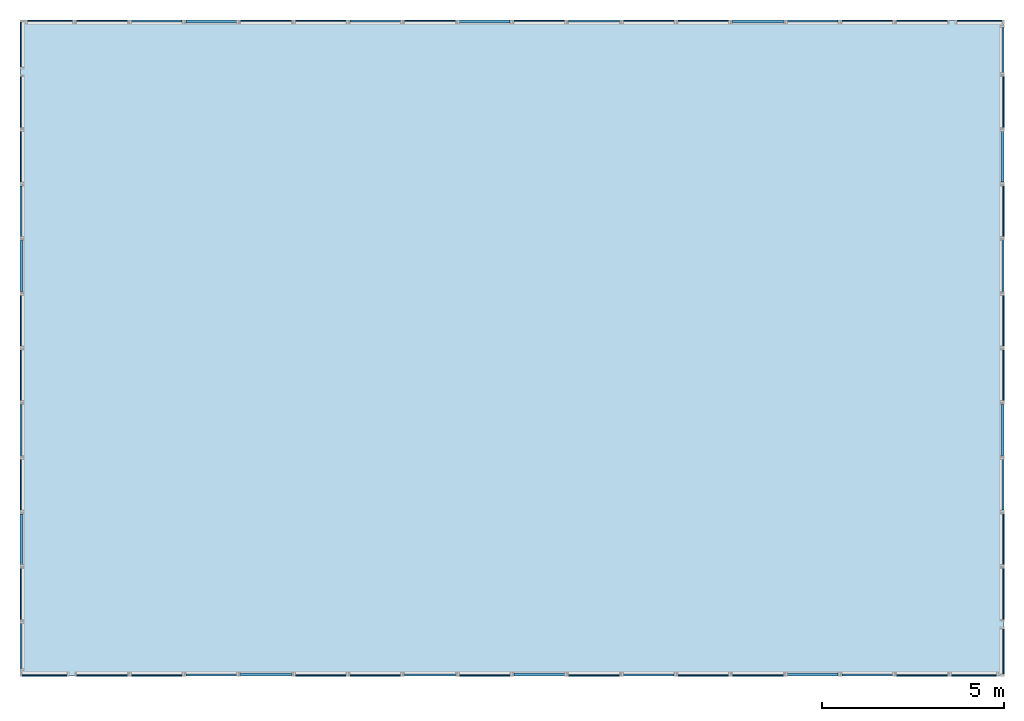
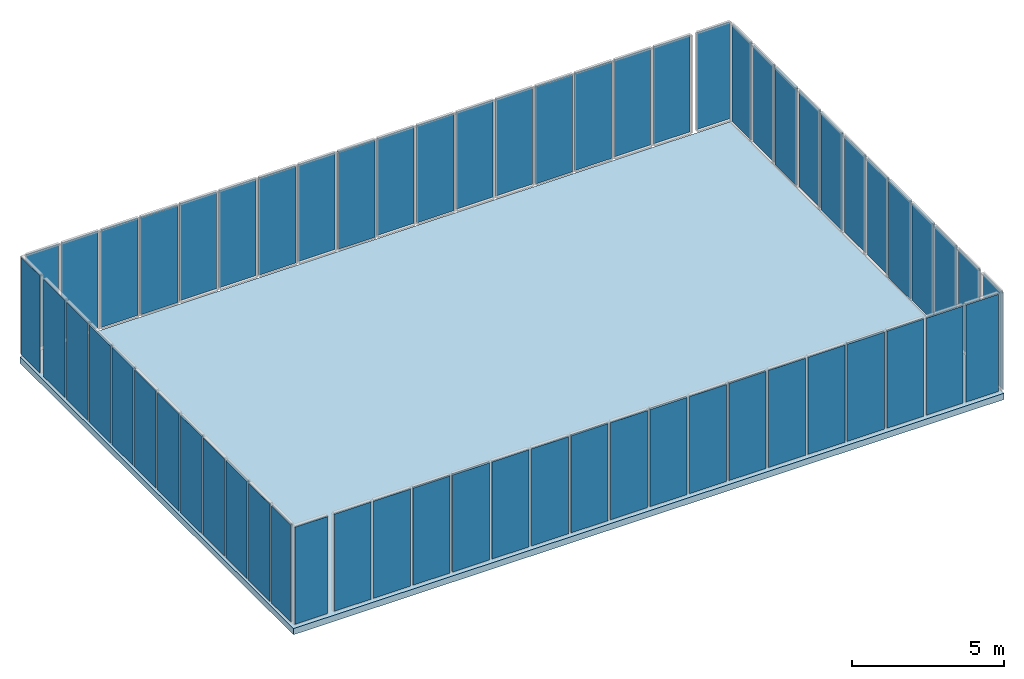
# One storey, part 4 of 4: 60 plates, 1 slab.
"""IFC4 building model written with IfcOpenShell, lengths in metres."""

from ifc_helpers import new_model, si_unit, frame, origin_with_axes, place, context, subcontext, project, spatial, indexed_curve, outline, extrude, material, element, save


model = new_model("IFC4")

# Units and contexts
model_context = context("Model", 3, precision=1e-05, world=origin_with_axes())
body_context = subcontext(model_context, "Body", "Model", "MODEL_VIEW")
ifc_project = project(units=[si_unit("AREAUNIT", "SQUARE_METRE"), si_unit("VOLUMEUNIT", "CUBIC_METRE"), si_unit("LENGTHUNIT", "METRE")], contexts=[model_context])

# Site, building, storey
site = spatial("IfcSite", under=ifc_project, Name="Synthetic Site")
building = spatial("IfcBuilding", under=site, Name="Complex Tower")
storey_placement = place(None, frame((0.0, 0.0, 8.4), z_axis=(0.0, 0.0, 1.0), x_axis=(1.0, 0.0, 0.0)))
storey = spatial("IfcBuildingStorey", under=building, at=storey_placement, Name="L03", Elevation=8.4)

# Plates
ifc_material_1 = material(Name="Glass")
plate_1_placement = place(storey_placement, frame((0.05, 0.0, 0.15000000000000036), z_axis=(0.0, 0.0, 1.0), x_axis=(1.0, 0.0, 0.0)))
element("IfcPlate", 1, at=plate_1_placement, inside=storey, material=ifc_material_1, Name="CT-L03-S-001", PredefinedType="CURTAIN_PANEL", context=body_context, shape_type="SweptSolid", body=[
    extrude(outline(indexed_curve([(0.0, 0.0), (0.0, 0.028), (1.25, 0.028), (1.25, 0.0), (0.0, 0.0)], self_intersect=False)), origin_with_axes(), (0.0, 0.0, 1.0), 3.9000000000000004),
])
for number, where, z_axis, x_axis, name in (
    (2, (1.55, 0.0, 0.15000000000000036), (0.0, 0.0, 1.0), (1.0, 0.0, 0.0), "CT-L03-S-002"),
    (3, (3.05, 0.0, 0.15000000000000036), (0.0, 0.0, 1.0), (1.0, 0.0, 0.0), "CT-L03-S-003"),
):
    element("IfcPlate", number, at=place(storey_placement, frame(where, z_axis=z_axis, x_axis=x_axis)), inside=storey, material=ifc_material_1, Name=name, PredefinedType="CURTAIN_PANEL", context=body_context, shape_type="SweptSolid", body=[
        extrude(outline(indexed_curve([(0.0, 0.0), (0.0, 0.028), (1.4, 0.028), (1.4, 0.0), (0.0, 0.0)], self_intersect=False)), origin_with_axes(), (0.0, 0.0, 1.0), 3.9000000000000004),
    ])
ifc_material_2 = material(Name="Stone")
plate_2_placement = place(storey_placement, frame((4.55, 0.0, 0.15000000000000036), z_axis=(0.0, 0.0, 1.0), x_axis=(1.0, 0.0, 0.0)))
element("IfcPlate", 4, at=plate_2_placement, inside=storey, material=ifc_material_2, Name="CT-L03-S-004", PredefinedType="SHEET", context=body_context, shape_type="SweptSolid", body=[
    extrude(outline(indexed_curve([(0.0, 0.0), (0.0, 0.06), (1.4, 0.06), (1.4, 0.0), (0.0, 0.0)], self_intersect=False)), origin_with_axes(), (0.0, 0.0, 1.0), 3.9000000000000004),
])
ifc_material_3 = material(Name="Aluminium")
plate_3_placement = place(storey_placement, frame((6.05, 0.0, 0.15000000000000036), z_axis=(0.0, 0.0, 1.0), x_axis=(1.0, 0.0, 0.0)))
element("IfcPlate", 5, at=plate_3_placement, inside=storey, material=ifc_material_3, Name="CT-L03-S-005", PredefinedType="SHEET", context=body_context, shape_type="SweptSolid", body=[
    extrude(outline(indexed_curve([(0.0, 0.0), (0.0, 0.08), (1.4, 0.08), (1.4, 0.0), (0.0, 0.0)], self_intersect=False)), origin_with_axes(), (0.0, 0.0, 1.0), 3.9000000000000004),
])
for number, where, z_axis, x_axis, name in (
    (6, (7.55, 0.0, 0.15000000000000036), (0.0, 0.0, 1.0), (1.0, 0.0, 0.0), "CT-L03-S-006"),
    (7, (9.05, 0.0, 0.15000000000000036), (0.0, 0.0, 1.0), (1.0, 0.0, 0.0), "CT-L03-S-007"),
):
    element("IfcPlate", number, at=place(storey_placement, frame(where, z_axis=z_axis, x_axis=x_axis)), inside=storey, material=ifc_material_1, Name=name, PredefinedType="CURTAIN_PANEL", context=body_context, shape_type="SweptSolid", body=[
        extrude(outline(indexed_curve([(0.0, 0.0), (0.0, 0.028), (1.4, 0.028), (1.4, 0.0), (0.0, 0.0)], self_intersect=False)), origin_with_axes(), (0.0, 0.0, 1.0), 3.9000000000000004),
    ])
plate_4_placement = place(storey_placement, frame((10.55, 0.0, 0.15000000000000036), z_axis=(0.0, 0.0, 1.0), x_axis=(1.0, 0.0, 0.0)))
element("IfcPlate", 8, at=plate_4_placement, inside=storey, material=ifc_material_2, Name="CT-L03-S-008", PredefinedType="SHEET", context=body_context, shape_type="SweptSolid", body=[
    extrude(outline(indexed_curve([(0.0, 0.0), (0.0, 0.06), (1.4, 0.06), (1.4, 0.0), (0.0, 0.0)], self_intersect=False)), origin_with_axes(), (0.0, 0.0, 1.0), 3.9000000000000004),
])
plate_5_placement = place(storey_placement, frame((12.05, 0.0, 0.15000000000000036), z_axis=(0.0, 0.0, 1.0), x_axis=(1.0, 0.0, 0.0)))
element("IfcPlate", 9, at=plate_5_placement, inside=storey, material=ifc_material_1, Name="CT-L03-S-009", PredefinedType="CURTAIN_PANEL", context=body_context, shape_type="SweptSolid", body=[
    extrude(outline(indexed_curve([(0.0, 0.0), (0.0, 0.028), (1.4, 0.028), (1.4, 0.0), (0.0, 0.0)], self_intersect=False)), origin_with_axes(), (0.0, 0.0, 1.0), 3.9000000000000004),
])
plate_6_placement = place(storey_placement, frame((13.55, 0.0, 0.15000000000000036), z_axis=(0.0, 0.0, 1.0), x_axis=(1.0, 0.0, 0.0)))
element("IfcPlate", 10, at=plate_6_placement, inside=storey, material=ifc_material_3, Name="CT-L03-S-010", PredefinedType="SHEET", context=body_context, shape_type="SweptSolid", body=[
    extrude(outline(indexed_curve([(0.0, 0.0), (0.0, 0.08), (1.4, 0.08), (1.4, 0.0), (0.0, 0.0)], self_intersect=False)), origin_with_axes(), (0.0, 0.0, 1.0), 3.9000000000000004),
])
plate_7_placement = place(storey_placement, frame((15.05, 0.0, 0.15000000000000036), z_axis=(0.0, 0.0, 1.0), x_axis=(1.0, 0.0, 0.0)))
element("IfcPlate", 11, at=plate_7_placement, inside=storey, material=ifc_material_1, Name="CT-L03-S-011", PredefinedType="CURTAIN_PANEL", context=body_context, shape_type="SweptSolid", body=[
    extrude(outline(indexed_curve([(0.0, 0.0), (0.0, 0.028), (1.4, 0.028), (1.4, 0.0), (0.0, 0.0)], self_intersect=False)), origin_with_axes(), (0.0, 0.0, 1.0), 3.9000000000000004),
])
plate_8_placement = place(storey_placement, frame((16.55, 0.0, 0.15000000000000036), z_axis=(0.0, 0.0, 1.0), x_axis=(1.0, 0.0, 0.0)))
element("IfcPlate", 12, at=plate_8_placement, inside=storey, material=ifc_material_2, Name="CT-L03-S-012", PredefinedType="SHEET", context=body_context, shape_type="SweptSolid", body=[
    extrude(outline(indexed_curve([(0.0, 0.0), (0.0, 0.06), (1.4, 0.06), (1.4, 0.0), (0.0, 0.0)], self_intersect=False)), origin_with_axes(), (0.0, 0.0, 1.0), 3.9000000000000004),
])
for number, where, z_axis, x_axis, name in (
    (13, (18.05, 0.0, 0.15000000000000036), (0.0, 0.0, 1.0), (1.0, 0.0, 0.0), "CT-L03-S-013"),
    (14, (19.55, 0.0, 0.15000000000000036), (0.0, 0.0, 1.0), (1.0, 0.0, 0.0), "CT-L03-S-014"),
):
    element("IfcPlate", number, at=place(storey_placement, frame(where, z_axis=z_axis, x_axis=x_axis)), inside=storey, material=ifc_material_1, Name=name, PredefinedType="CURTAIN_PANEL", context=body_context, shape_type="SweptSolid", body=[
        extrude(outline(indexed_curve([(0.0, 0.0), (0.0, 0.028), (1.4, 0.028), (1.4, 0.0), (0.0, 0.0)], self_intersect=False)), origin_with_axes(), (0.0, 0.0, 1.0), 3.9000000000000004),
    ])
plate_9_placement = place(storey_placement, frame((21.05, 0.0, 0.15000000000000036), z_axis=(0.0, 0.0, 1.0), x_axis=(1.0, 0.0, 0.0)))
element("IfcPlate", 15, at=plate_9_placement, inside=storey, material=ifc_material_3, Name="CT-L03-S-015", PredefinedType="SHEET", context=body_context, shape_type="SweptSolid", body=[
    extrude(outline(indexed_curve([(0.0, 0.0), (0.0, 0.08), (1.4, 0.08), (1.4, 0.0), (0.0, 0.0)], self_intersect=False)), origin_with_axes(), (0.0, 0.0, 1.0), 3.9000000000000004),
])
plate_10_placement = place(storey_placement, frame((22.55, 0.0, 0.15000000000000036), z_axis=(0.0, 0.0, 1.0), x_axis=(1.0, 0.0, 0.0)))
element("IfcPlate", 16, at=plate_10_placement, inside=storey, material=ifc_material_2, Name="CT-L03-S-016", PredefinedType="SHEET", context=body_context, shape_type="SweptSolid", body=[
    extrude(outline(indexed_curve([(0.0, 0.0), (0.0, 0.06), (1.4, 0.06), (1.4, 0.0), (0.0, 0.0)], self_intersect=False)), origin_with_axes(), (0.0, 0.0, 1.0), 3.9000000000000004),
])
plate_11_placement = place(storey_placement, frame((24.05, 0.0, 0.15000000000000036), z_axis=(0.0, 0.0, 1.0), x_axis=(1.0, 0.0, 0.0)))
element("IfcPlate", 17, at=plate_11_placement, inside=storey, material=ifc_material_1, Name="CT-L03-S-017", PredefinedType="CURTAIN_PANEL", context=body_context, shape_type="SweptSolid", body=[
    extrude(outline(indexed_curve([(0.0, 0.0), (0.0, 0.028), (1.4, 0.028), (1.4, 0.0), (0.0, 0.0)], self_intersect=False)), origin_with_axes(), (0.0, 0.0, 1.0), 3.9000000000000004),
])
for number, where, z_axis, x_axis, name in (
    (18, (25.55, 0.0, 0.15000000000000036), (0.0, 0.0, 1.0), (1.0, 0.0, 0.0), "CT-L03-S-018"),
    (19, (27.0, 0.05, 0.15000000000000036), (0.0, 0.0, 1.0), (6.123233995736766e-17, 1.0, 0.0), "CT-L03-E-001"),
):
    element("IfcPlate", number, at=place(storey_placement, frame(where, z_axis=z_axis, x_axis=x_axis)), inside=storey, material=ifc_material_1, Name=name, PredefinedType="CURTAIN_PANEL", context=body_context, shape_type="SweptSolid", body=[
        extrude(outline(indexed_curve([(0.0, 0.0), (0.0, 0.028), (1.25, 0.028), (1.25, 0.0), (0.0, 0.0)], self_intersect=False)), origin_with_axes(), (0.0, 0.0, 1.0), 3.9000000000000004),
    ])
for number, where, z_axis, x_axis, name in (
    (20, (27.0, 1.55, 0.15000000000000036), (0.0, 0.0, 1.0), (6.123233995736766e-17, 1.0, 0.0), "CT-L03-E-002"),
    (21, (27.0, 3.05, 0.15000000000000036), (0.0, 0.0, 1.0), (6.123233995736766e-17, 1.0, 0.0), "CT-L03-E-003"),
):
    element("IfcPlate", number, at=place(storey_placement, frame(where, z_axis=z_axis, x_axis=x_axis)), inside=storey, material=ifc_material_1, Name=name, PredefinedType="CURTAIN_PANEL", context=body_context, shape_type="SweptSolid", body=[
        extrude(outline(indexed_curve([(0.0, 0.0), (0.0, 0.028), (1.4, 0.028), (1.4, 0.0), (0.0, 0.0)], self_intersect=False)), origin_with_axes(), (0.0, 0.0, 1.0), 3.9000000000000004),
    ])
plate_12_placement = place(storey_placement, frame((27.0, 4.55, 0.15000000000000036), z_axis=(0.0, 0.0, 1.0), x_axis=(6.123233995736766e-17, 1.0, 0.0)))
element("IfcPlate", 22, at=plate_12_placement, inside=storey, material=ifc_material_2, Name="CT-L03-E-004", PredefinedType="SHEET", context=body_context, shape_type="SweptSolid", body=[
    extrude(outline(indexed_curve([(0.0, 0.0), (0.0, 0.06), (1.4, 0.06), (1.4, 0.0), (0.0, 0.0)], self_intersect=False)), origin_with_axes(), (0.0, 0.0, 1.0), 3.9000000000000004),
])
plate_13_placement = place(storey_placement, frame((27.0, 6.05, 0.15000000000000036), z_axis=(0.0, 0.0, 1.0), x_axis=(6.123233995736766e-17, 1.0, 0.0)))
element("IfcPlate", 23, at=plate_13_placement, inside=storey, material=ifc_material_3, Name="CT-L03-E-005", PredefinedType="SHEET", context=body_context, shape_type="SweptSolid", body=[
    extrude(outline(indexed_curve([(0.0, 0.0), (0.0, 0.08), (1.4, 0.08), (1.4, 0.0), (0.0, 0.0)], self_intersect=False)), origin_with_axes(), (0.0, 0.0, 1.0), 3.9000000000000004),
])
for number, where, z_axis, x_axis, name in (
    (24, (27.0, 7.55, 0.15000000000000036), (0.0, 0.0, 1.0), (6.123233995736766e-17, 1.0, 0.0), "CT-L03-E-006"),
    (25, (27.0, 9.05, 0.15000000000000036), (0.0, 0.0, 1.0), (6.123233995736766e-17, 1.0, 0.0), "CT-L03-E-007"),
):
    element("IfcPlate", number, at=place(storey_placement, frame(where, z_axis=z_axis, x_axis=x_axis)), inside=storey, material=ifc_material_1, Name=name, PredefinedType="CURTAIN_PANEL", context=body_context, shape_type="SweptSolid", body=[
        extrude(outline(indexed_curve([(0.0, 0.0), (0.0, 0.028), (1.4, 0.028), (1.4, 0.0), (0.0, 0.0)], self_intersect=False)), origin_with_axes(), (0.0, 0.0, 1.0), 3.9000000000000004),
    ])
plate_14_placement = place(storey_placement, frame((27.0, 10.55, 0.15000000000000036), z_axis=(0.0, 0.0, 1.0), x_axis=(6.123233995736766e-17, 1.0, 0.0)))
element("IfcPlate", 26, at=plate_14_placement, inside=storey, material=ifc_material_2, Name="CT-L03-E-008", PredefinedType="SHEET", context=body_context, shape_type="SweptSolid", body=[
    extrude(outline(indexed_curve([(0.0, 0.0), (0.0, 0.06), (1.4, 0.06), (1.4, 0.0), (0.0, 0.0)], self_intersect=False)), origin_with_axes(), (0.0, 0.0, 1.0), 3.9000000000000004),
])
plate_15_placement = place(storey_placement, frame((27.0, 12.05, 0.15000000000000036), z_axis=(0.0, 0.0, 1.0), x_axis=(6.123233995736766e-17, 1.0, 0.0)))
element("IfcPlate", 27, at=plate_15_placement, inside=storey, material=ifc_material_1, Name="CT-L03-E-009", PredefinedType="CURTAIN_PANEL", context=body_context, shape_type="SweptSolid", body=[
    extrude(outline(indexed_curve([(0.0, 0.0), (0.0, 0.028), (1.4, 0.028), (1.4, 0.0), (0.0, 0.0)], self_intersect=False)), origin_with_axes(), (0.0, 0.0, 1.0), 3.9000000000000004),
])
plate_16_placement = place(storey_placement, frame((27.0, 13.55, 0.15000000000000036), z_axis=(0.0, 0.0, 1.0), x_axis=(6.123233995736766e-17, 1.0, 0.0)))
element("IfcPlate", 28, at=plate_16_placement, inside=storey, material=ifc_material_3, Name="CT-L03-E-010", PredefinedType="SHEET", context=body_context, shape_type="SweptSolid", body=[
    extrude(outline(indexed_curve([(0.0, 0.0), (0.0, 0.08), (1.4, 0.08), (1.4, 0.0), (0.0, 0.0)], self_intersect=False)), origin_with_axes(), (0.0, 0.0, 1.0), 3.9000000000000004),
])
plate_17_placement = place(storey_placement, frame((27.0, 15.05, 0.15000000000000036), z_axis=(0.0, 0.0, 1.0), x_axis=(6.123233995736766e-17, 1.0, 0.0)))
element("IfcPlate", 29, at=plate_17_placement, inside=storey, material=ifc_material_1, Name="CT-L03-E-011", PredefinedType="CURTAIN_PANEL", context=body_context, shape_type="SweptSolid", body=[
    extrude(outline(indexed_curve([(0.0, 0.0), (0.0, 0.028), (1.4, 0.028), (1.4, 0.0), (0.0, 0.0)], self_intersect=False)), origin_with_axes(), (0.0, 0.0, 1.0), 3.9000000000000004),
])
plate_18_placement = place(storey_placement, frame((27.0, 16.55, 0.15000000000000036), z_axis=(0.0, 0.0, 1.0), x_axis=(6.123233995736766e-17, 1.0, 0.0)))
element("IfcPlate", 30, at=plate_18_placement, inside=storey, material=ifc_material_2, Name="CT-L03-E-012", PredefinedType="SHEET", context=body_context, shape_type="SweptSolid", body=[
    extrude(outline(indexed_curve([(0.0, 0.0), (0.0, 0.06), (1.25, 0.06), (1.25, 0.0), (0.0, 0.0)], self_intersect=False)), origin_with_axes(), (0.0, 0.0, 1.0), 3.9000000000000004),
])
plate_19_placement = place(storey_placement, frame((26.95, 18.0, 0.15000000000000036), z_axis=(0.0, 0.0, 1.0), x_axis=(-1.0, 1.2246467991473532e-16, 0.0)))
element("IfcPlate", 31, at=plate_19_placement, inside=storey, material=ifc_material_1, Name="CT-L03-N-001", PredefinedType="CURTAIN_PANEL", context=body_context, shape_type="SweptSolid", body=[
    extrude(outline(indexed_curve([(0.0, 0.0), (0.0, 0.028), (1.25, 0.028), (1.25, 0.0), (0.0, 0.0)], self_intersect=False)), origin_with_axes(), (0.0, 0.0, 1.0), 3.9000000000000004),
])
for number, where, z_axis, x_axis, name in (
    (32, (25.45, 18.0, 0.15000000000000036), (0.0, 0.0, 1.0), (-1.0, 1.2246467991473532e-16, 0.0), "CT-L03-N-002"),
    (33, (23.95, 18.0, 0.15000000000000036), (0.0, 0.0, 1.0), (-1.0, 1.2246467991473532e-16, 0.0), "CT-L03-N-003"),
):
    element("IfcPlate", number, at=place(storey_placement, frame(where, z_axis=z_axis, x_axis=x_axis)), inside=storey, material=ifc_material_1, Name=name, PredefinedType="CURTAIN_PANEL", context=body_context, shape_type="SweptSolid", body=[
        extrude(outline(indexed_curve([(0.0, 0.0), (0.0, 0.028), (1.4, 0.028), (1.4, 0.0), (0.0, 0.0)], self_intersect=False)), origin_with_axes(), (0.0, 0.0, 1.0), 3.9000000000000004),
    ])
plate_20_placement = place(storey_placement, frame((22.45, 18.0, 0.15000000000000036), z_axis=(0.0, 0.0, 1.0), x_axis=(-1.0, 1.2246467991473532e-16, 0.0)))
element("IfcPlate", 34, at=plate_20_placement, inside=storey, material=ifc_material_2, Name="CT-L03-N-004", PredefinedType="SHEET", context=body_context, shape_type="SweptSolid", body=[
    extrude(outline(indexed_curve([(0.0, 0.0), (0.0, 0.06), (1.4, 0.06), (1.4, 0.0), (0.0, 0.0)], self_intersect=False)), origin_with_axes(), (0.0, 0.0, 1.0), 3.9000000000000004),
])
plate_21_placement = place(storey_placement, frame((20.95, 18.0, 0.15000000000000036), z_axis=(0.0, 0.0, 1.0), x_axis=(-1.0, 1.2246467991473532e-16, 0.0)))
element("IfcPlate", 35, at=plate_21_placement, inside=storey, material=ifc_material_3, Name="CT-L03-N-005", PredefinedType="SHEET", context=body_context, shape_type="SweptSolid", body=[
    extrude(outline(indexed_curve([(0.0, 0.0), (0.0, 0.08), (1.4, 0.08), (1.4, 0.0), (0.0, 0.0)], self_intersect=False)), origin_with_axes(), (0.0, 0.0, 1.0), 3.9000000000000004),
])
for number, where, z_axis, x_axis, name in (
    (36, (19.45, 18.0, 0.15000000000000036), (0.0, 0.0, 1.0), (-1.0, 1.2246467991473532e-16, 0.0), "CT-L03-N-006"),
    (37, (17.95, 18.0, 0.15000000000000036), (0.0, 0.0, 1.0), (-1.0, 1.2246467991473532e-16, 0.0), "CT-L03-N-007"),
):
    element("IfcPlate", number, at=place(storey_placement, frame(where, z_axis=z_axis, x_axis=x_axis)), inside=storey, material=ifc_material_1, Name=name, PredefinedType="CURTAIN_PANEL", context=body_context, shape_type="SweptSolid", body=[
        extrude(outline(indexed_curve([(0.0, 0.0), (0.0, 0.028), (1.4, 0.028), (1.4, 0.0), (0.0, 0.0)], self_intersect=False)), origin_with_axes(), (0.0, 0.0, 1.0), 3.9000000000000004),
    ])
plate_22_placement = place(storey_placement, frame((16.45, 18.0, 0.15000000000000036), z_axis=(0.0, 0.0, 1.0), x_axis=(-1.0, 1.2246467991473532e-16, 0.0)))
element("IfcPlate", 38, at=plate_22_placement, inside=storey, material=ifc_material_2, Name="CT-L03-N-008", PredefinedType="SHEET", context=body_context, shape_type="SweptSolid", body=[
    extrude(outline(indexed_curve([(0.0, 0.0), (0.0, 0.06), (1.4, 0.06), (1.4, 0.0), (0.0, 0.0)], self_intersect=False)), origin_with_axes(), (0.0, 0.0, 1.0), 3.9000000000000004),
])
plate_23_placement = place(storey_placement, frame((14.95, 18.0, 0.15000000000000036), z_axis=(0.0, 0.0, 1.0), x_axis=(-1.0, 1.2246467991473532e-16, 0.0)))
element("IfcPlate", 39, at=plate_23_placement, inside=storey, material=ifc_material_1, Name="CT-L03-N-009", PredefinedType="CURTAIN_PANEL", context=body_context, shape_type="SweptSolid", body=[
    extrude(outline(indexed_curve([(0.0, 0.0), (0.0, 0.028), (1.4, 0.028), (1.4, 0.0), (0.0, 0.0)], self_intersect=False)), origin_with_axes(), (0.0, 0.0, 1.0), 3.9000000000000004),
])
plate_24_placement = place(storey_placement, frame((13.45, 18.0, 0.15000000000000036), z_axis=(0.0, 0.0, 1.0), x_axis=(-1.0, 1.2246467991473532e-16, 0.0)))
element("IfcPlate", 40, at=plate_24_placement, inside=storey, material=ifc_material_3, Name="CT-L03-N-010", PredefinedType="SHEET", context=body_context, shape_type="SweptSolid", body=[
    extrude(outline(indexed_curve([(0.0, 0.0), (0.0, 0.08), (1.4, 0.08), (1.4, 0.0), (0.0, 0.0)], self_intersect=False)), origin_with_axes(), (0.0, 0.0, 1.0), 3.9000000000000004),
])
plate_25_placement = place(storey_placement, frame((11.95, 18.000000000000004, 0.15000000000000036), z_axis=(0.0, 0.0, 1.0), x_axis=(-1.0, 1.2246467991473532e-16, 0.0)))
element("IfcPlate", 41, at=plate_25_placement, inside=storey, material=ifc_material_1, Name="CT-L03-N-011", PredefinedType="CURTAIN_PANEL", context=body_context, shape_type="SweptSolid", body=[
    extrude(outline(indexed_curve([(0.0, 0.0), (0.0, 0.028), (1.4, 0.028), (1.4, 0.0), (0.0, 0.0)], self_intersect=False)), origin_with_axes(), (0.0, 0.0, 1.0), 3.9000000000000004),
])
plate_26_placement = place(storey_placement, frame((10.45, 18.000000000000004, 0.15000000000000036), z_axis=(0.0, 0.0, 1.0), x_axis=(-1.0, 1.2246467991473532e-16, 0.0)))
element("IfcPlate", 42, at=plate_26_placement, inside=storey, material=ifc_material_2, Name="CT-L03-N-012", PredefinedType="SHEET", context=body_context, shape_type="SweptSolid", body=[
    extrude(outline(indexed_curve([(0.0, 0.0), (0.0, 0.06), (1.4, 0.06), (1.4, 0.0), (0.0, 0.0)], self_intersect=False)), origin_with_axes(), (0.0, 0.0, 1.0), 3.9000000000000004),
])
for number, where, z_axis, x_axis, name in (
    (43, (8.95, 18.000000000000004, 0.15000000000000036), (0.0, 0.0, 1.0), (-1.0, 1.2246467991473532e-16, 0.0), "CT-L03-N-013"),
    (44, (7.449999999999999, 18.000000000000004, 0.15000000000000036), (0.0, 0.0, 1.0), (-1.0, 1.2246467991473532e-16, 0.0), "CT-L03-N-014"),
):
    element("IfcPlate", number, at=place(storey_placement, frame(where, z_axis=z_axis, x_axis=x_axis)), inside=storey, material=ifc_material_1, Name=name, PredefinedType="CURTAIN_PANEL", context=body_context, shape_type="SweptSolid", body=[
        extrude(outline(indexed_curve([(0.0, 0.0), (0.0, 0.028), (1.4, 0.028), (1.4, 0.0), (0.0, 0.0)], self_intersect=False)), origin_with_axes(), (0.0, 0.0, 1.0), 3.9000000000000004),
    ])
plate_27_placement = place(storey_placement, frame((5.949999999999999, 18.000000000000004, 0.15000000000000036), z_axis=(0.0, 0.0, 1.0), x_axis=(-1.0, 1.2246467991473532e-16, 0.0)))
element("IfcPlate", 45, at=plate_27_placement, inside=storey, material=ifc_material_3, Name="CT-L03-N-015", PredefinedType="SHEET", context=body_context, shape_type="SweptSolid", body=[
    extrude(outline(indexed_curve([(0.0, 0.0), (0.0, 0.08), (1.4, 0.08), (1.4, 0.0), (0.0, 0.0)], self_intersect=False)), origin_with_axes(), (0.0, 0.0, 1.0), 3.9000000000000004),
])
plate_28_placement = place(storey_placement, frame((4.449999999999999, 18.000000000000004, 0.15000000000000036), z_axis=(0.0, 0.0, 1.0), x_axis=(-1.0, 1.2246467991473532e-16, 0.0)))
element("IfcPlate", 46, at=plate_28_placement, inside=storey, material=ifc_material_2, Name="CT-L03-N-016", PredefinedType="SHEET", context=body_context, shape_type="SweptSolid", body=[
    extrude(outline(indexed_curve([(0.0, 0.0), (0.0, 0.06), (1.4, 0.06), (1.4, 0.0), (0.0, 0.0)], self_intersect=False)), origin_with_axes(), (0.0, 0.0, 1.0), 3.9000000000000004),
])
plate_29_placement = place(storey_placement, frame((2.9499999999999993, 18.000000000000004, 0.15000000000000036), z_axis=(0.0, 0.0, 1.0), x_axis=(-1.0, 1.2246467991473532e-16, 0.0)))
element("IfcPlate", 47, at=plate_29_placement, inside=storey, material=ifc_material_1, Name="CT-L03-N-017", PredefinedType="CURTAIN_PANEL", context=body_context, shape_type="SweptSolid", body=[
    extrude(outline(indexed_curve([(0.0, 0.0), (0.0, 0.028), (1.4, 0.028), (1.4, 0.0), (0.0, 0.0)], self_intersect=False)), origin_with_axes(), (0.0, 0.0, 1.0), 3.9000000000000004),
])
for number, where, z_axis, x_axis, name in (
    (48, (1.4499999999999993, 18.000000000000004, 0.15000000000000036), (0.0, 0.0, 1.0), (-1.0, 1.2246467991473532e-16, 0.0), "CT-L03-N-018"),
    (49, (-9.184850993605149e-18, 17.95, 0.15000000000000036), (0.0, 0.0, 1.0), (-1.8369701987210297e-16, -1.0, 0.0), "CT-L03-W-001"),
):
    element("IfcPlate", number, at=place(storey_placement, frame(where, z_axis=z_axis, x_axis=x_axis)), inside=storey, material=ifc_material_1, Name=name, PredefinedType="CURTAIN_PANEL", context=body_context, shape_type="SweptSolid", body=[
        extrude(outline(indexed_curve([(0.0, 0.0), (0.0, 0.028), (1.25, 0.028), (1.25, 0.0), (0.0, 0.0)], self_intersect=False)), origin_with_axes(), (0.0, 0.0, 1.0), 3.9000000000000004),
    ])
for number, where, z_axis, x_axis, name in (
    (50, (-2.847303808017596e-16, 16.45, 0.15000000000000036), (0.0, 0.0, 1.0), (-1.8369701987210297e-16, -1.0, 0.0), "CT-L03-W-002"),
    (51, (-5.60275910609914e-16, 14.95, 0.15000000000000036), (0.0, 0.0, 1.0), (-1.8369701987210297e-16, -1.0, 0.0), "CT-L03-W-003"),
):
    element("IfcPlate", number, at=place(storey_placement, frame(where, z_axis=z_axis, x_axis=x_axis)), inside=storey, material=ifc_material_1, Name=name, PredefinedType="CURTAIN_PANEL", context=body_context, shape_type="SweptSolid", body=[
        extrude(outline(indexed_curve([(0.0, 0.0), (0.0, 0.028), (1.4, 0.028), (1.4, 0.0), (0.0, 0.0)], self_intersect=False)), origin_with_axes(), (0.0, 0.0, 1.0), 3.9000000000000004),
    ])
plate_30_placement = place(storey_placement, frame((-8.358214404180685e-16, 13.45, 0.15000000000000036), z_axis=(0.0, 0.0, 1.0), x_axis=(-1.8369701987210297e-16, -1.0, 0.0)))
element("IfcPlate", 52, at=plate_30_placement, inside=storey, material=ifc_material_2, Name="CT-L03-W-004", PredefinedType="SHEET", context=body_context, shape_type="SweptSolid", body=[
    extrude(outline(indexed_curve([(0.0, 0.0), (0.0, 0.06), (1.4, 0.06), (1.4, 0.0), (0.0, 0.0)], self_intersect=False)), origin_with_axes(), (0.0, 0.0, 1.0), 3.9000000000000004),
])
plate_31_placement = place(storey_placement, frame((-1.111366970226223e-15, 11.95, 0.15000000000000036), z_axis=(0.0, 0.0, 1.0), x_axis=(-1.8369701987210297e-16, -1.0, 0.0)))
element("IfcPlate", 53, at=plate_31_placement, inside=storey, material=ifc_material_3, Name="CT-L03-W-005", PredefinedType="SHEET", context=body_context, shape_type="SweptSolid", body=[
    extrude(outline(indexed_curve([(0.0, 0.0), (0.0, 0.08), (1.4, 0.08), (1.4, 0.0), (0.0, 0.0)], self_intersect=False)), origin_with_axes(), (0.0, 0.0, 1.0), 3.9000000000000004),
])
for number, where, z_axis, x_axis, name in (
    (54, (-1.3869125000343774e-15, 10.45, 0.15000000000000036), (0.0, 0.0, 1.0), (-1.8369701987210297e-16, -1.0, 0.0), "CT-L03-W-006"),
    (55, (-1.662458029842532e-15, 8.95, 0.15000000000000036), (0.0, 0.0, 1.0), (-1.8369701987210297e-16, -1.0, 0.0), "CT-L03-W-007"),
):
    element("IfcPlate", number, at=place(storey_placement, frame(where, z_axis=z_axis, x_axis=x_axis)), inside=storey, material=ifc_material_1, Name=name, PredefinedType="CURTAIN_PANEL", context=body_context, shape_type="SweptSolid", body=[
        extrude(outline(indexed_curve([(0.0, 0.0), (0.0, 0.028), (1.4, 0.028), (1.4, 0.0), (0.0, 0.0)], self_intersect=False)), origin_with_axes(), (0.0, 0.0, 1.0), 3.9000000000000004),
    ])
plate_32_placement = place(storey_placement, frame((-1.9380035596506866e-15, 7.449999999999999, 0.15000000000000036), z_axis=(0.0, 0.0, 1.0), x_axis=(-1.8369701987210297e-16, -1.0, 0.0)))
element("IfcPlate", 56, at=plate_32_placement, inside=storey, material=ifc_material_2, Name="CT-L03-W-008", PredefinedType="SHEET", context=body_context, shape_type="SweptSolid", body=[
    extrude(outline(indexed_curve([(0.0, 0.0), (0.0, 0.06), (1.4, 0.06), (1.4, 0.0), (0.0, 0.0)], self_intersect=False)), origin_with_axes(), (0.0, 0.0, 1.0), 3.9000000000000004),
])
plate_33_placement = place(storey_placement, frame((-2.213549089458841e-15, 5.949999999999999, 0.15000000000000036), z_axis=(0.0, 0.0, 1.0), x_axis=(-1.8369701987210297e-16, -1.0, 0.0)))
element("IfcPlate", 57, at=plate_33_placement, inside=storey, material=ifc_material_1, Name="CT-L03-W-009", PredefinedType="CURTAIN_PANEL", context=body_context, shape_type="SweptSolid", body=[
    extrude(outline(indexed_curve([(0.0, 0.0), (0.0, 0.028), (1.4, 0.028), (1.4, 0.0), (0.0, 0.0)], self_intersect=False)), origin_with_axes(), (0.0, 0.0, 1.0), 3.9000000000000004),
])
plate_34_placement = place(storey_placement, frame((-2.4890946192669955e-15, 4.449999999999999, 0.15000000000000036), z_axis=(0.0, 0.0, 1.0), x_axis=(-1.8369701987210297e-16, -1.0, 0.0)))
element("IfcPlate", 58, at=plate_34_placement, inside=storey, material=ifc_material_3, Name="CT-L03-W-010", PredefinedType="SHEET", context=body_context, shape_type="SweptSolid", body=[
    extrude(outline(indexed_curve([(0.0, 0.0), (0.0, 0.08), (1.4, 0.08), (1.4, 0.0), (0.0, 0.0)], self_intersect=False)), origin_with_axes(), (0.0, 0.0, 1.0), 3.9000000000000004),
])
plate_35_placement = place(storey_placement, frame((-2.76464014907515e-15, 2.9499999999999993, 0.15000000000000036), z_axis=(0.0, 0.0, 1.0), x_axis=(-1.8369701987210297e-16, -1.0, 0.0)))
element("IfcPlate", 59, at=plate_35_placement, inside=storey, material=ifc_material_1, Name="CT-L03-W-011", PredefinedType="CURTAIN_PANEL", context=body_context, shape_type="SweptSolid", body=[
    extrude(outline(indexed_curve([(0.0, 0.0), (0.0, 0.028), (1.4, 0.028), (1.4, 0.0), (0.0, 0.0)], self_intersect=False)), origin_with_axes(), (0.0, 0.0, 1.0), 3.9000000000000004),
])
plate_36_placement = place(storey_placement, frame((-3.040185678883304e-15, 1.4499999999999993, 0.15000000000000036), z_axis=(0.0, 0.0, 1.0), x_axis=(-1.8369701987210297e-16, -1.0, 0.0)))
element("IfcPlate", 60, at=plate_36_placement, inside=storey, material=ifc_material_2, Name="CT-L03-W-012", PredefinedType="SHEET", context=body_context, shape_type="SweptSolid", body=[
    extrude(outline(indexed_curve([(0.0, 0.0), (0.0, 0.06), (1.25, 0.06), (1.25, 0.0), (0.0, 0.0)], self_intersect=False)), origin_with_axes(), (0.0, 0.0, 1.0), 3.9000000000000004),
])

# Slab
ifc_material_4 = material(Name="Concrete")
slab_placement = place(storey_placement, frame((0.0, 0.0, -0.25), z_axis=(0.0, 0.0, 1.0), x_axis=(1.0, 0.0, 0.0)))
element("IfcSlab", 61, at=slab_placement, inside=storey, material=ifc_material_4, Name="CT-SLAB-03", PredefinedType="FLOOR", context=body_context, shape_type="SweptSolid", body=[
    extrude(outline(indexed_curve([(0.0, 0.0), (0.0, 18.0), (27.0, 18.0), (27.0, 0.0), (0.0, 0.0)], self_intersect=False)), origin_with_axes(), (0.0, 0.0, 1.0), 0.25),
])

save(model, "model.ifc")
